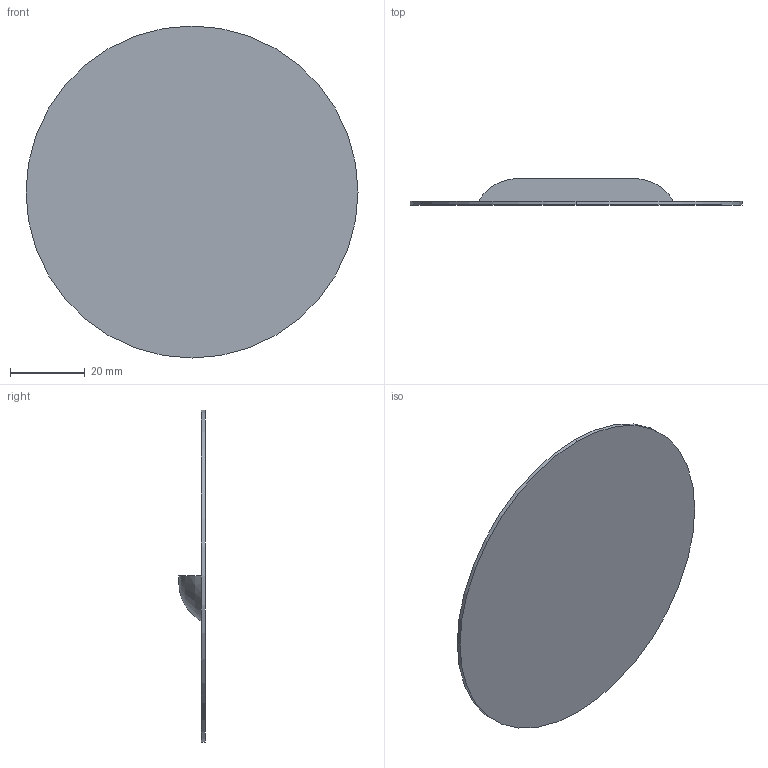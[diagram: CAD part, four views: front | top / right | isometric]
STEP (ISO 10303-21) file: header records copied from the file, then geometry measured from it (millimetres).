
FILE_DESCRIPTION (( 'STEP AP203' ), '1' );
FILE_NAME ('L11 393350-10 - LOUVER, SINGLE HIT 2.06 .040-.093 ALUM.STEP', '2025-01-28T13:52:49', ( '' ), ( '' ), 'SwSTEP 2.0', 'SolidWorks 2024', '' );
FILE_SCHEMA (( 'CONFIG_CONTROL_DESIGN' ));
Length unit declared in the file: inch
Products named in the file (1): L11 393350-10 - LOUVER, SINGLE HIT 2.06 .040-.093 ALUM
Bounding box: 88.9 x 7.11 x 88.9 mm (x, y, z)
Volume: 8714.4 mm3; surface area: 13111.1 mm2
Topology: 1 solids, 1 shells, 9 faces, 18 edges, 12 vertices
Faces by surface type: plane 4, cylinder 3, torus 2
Entity records: 323 total; most frequent: DIRECTION 50, CARTESIAN_POINT 40, ORIENTED_EDGE 36, AXIS2_PLACEMENT_3D 22, EDGE_CURVE 18, CIRCLE 12, VERTEX_POINT 12, EDGE_LOOP 10
